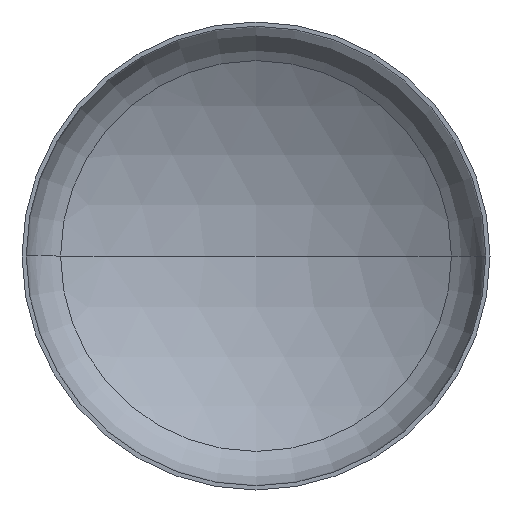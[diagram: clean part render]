
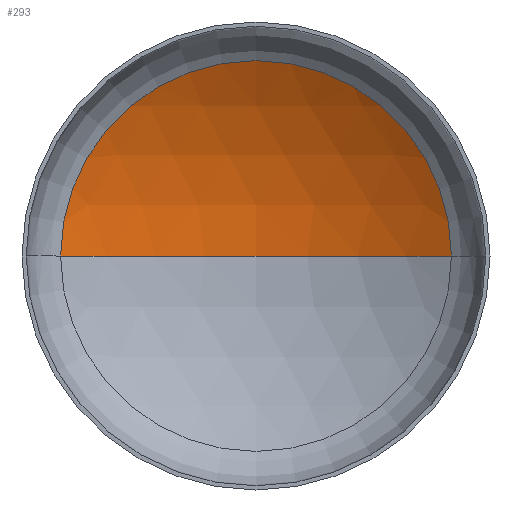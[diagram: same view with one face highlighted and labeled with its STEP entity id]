
A CAD part, front view. The second image highlights one B-rep face of the part: STEP entity #293.
In plain terms, the highlighted spherical face has radius 6400 mm.
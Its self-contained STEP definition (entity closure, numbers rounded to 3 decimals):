
#1 = CARTESIAN_POINT ( 'NONE',  ( 3339.884, 1169.231, 0. ) ) ;
#15 = AXIS2_PLACEMENT_3D ( 'NONE', #155, #238, #253 ) ;
#16 = AXIS2_PLACEMENT_3D ( 'NONE', #182, #183, #305 ) ;
#18 = AXIS2_PLACEMENT_3D ( 'NONE', #203, #194, #192 ) ;
#30 = SPHERICAL_SURFACE ( 'NONE', #119, 6400. ) ;
#50 = VERTEX_POINT ( 'NONE', #270 ) ;
#55 = ORIENTED_EDGE ( 'NONE', *, *, #84, .T. ) ;
#64 = ORIENTED_EDGE ( 'NONE', *, *, #85, .T. ) ;
#84 = EDGE_CURVE ( 'NONE', #103, #110, #257, .T. ) ;
#85 = EDGE_CURVE ( 'NONE', #50, #103, #202, .T. ) ;
#88 = EDGE_CURVE ( 'NONE', #50, #110, #322, .T. ) ;
#103 = VERTEX_POINT ( 'NONE', #1 ) ;
#110 = VERTEX_POINT ( 'NONE', #390 ) ;
#113 = EDGE_LOOP ( 'NONE', ( #125, #64, #55 ) ) ;
#119 = AXIS2_PLACEMENT_3D ( 'NONE', #134, #164, #151 ) ;
#125 = ORIENTED_EDGE ( 'NONE', *, *, #88, .F. ) ;
#134 = CARTESIAN_POINT ( 'NONE',  ( 0., -4290.181, 0. ) ) ;
#151 = DIRECTION ( 'NONE',  ( -1., 0., 0. ) ) ;
#155 = CARTESIAN_POINT ( 'NONE',  ( 0., -4290.181, 0. ) ) ;
#164 = DIRECTION ( 'NONE',  ( 0., 0., -1. ) ) ;
#182 = CARTESIAN_POINT ( 'NONE',  ( 0., -4290.181, 0. ) ) ;
#183 = DIRECTION ( 'NONE',  ( 0., 0., -1. ) ) ;
#192 = DIRECTION ( 'NONE',  ( 1., 0., 0. ) ) ;
#194 = DIRECTION ( 'NONE',  ( 0., -1., 0. ) ) ;
#202 = CIRCLE ( 'NONE', #16, 6400. ) ;
#203 = CARTESIAN_POINT ( 'NONE',  ( 0., 1169.231, 0. ) ) ;
#238 = DIRECTION ( 'NONE',  ( 0., 0., 1. ) ) ;
#253 = DIRECTION ( 'NONE',  ( 1., 0., 0. ) ) ;
#257 = CIRCLE ( 'NONE', #18, 3339.884 ) ;
#270 = CARTESIAN_POINT ( 'NONE',  ( 0., 2109.819, 0. ) ) ;
#293 = ADVANCED_FACE ( 'NONE', ( #367 ), #30, .F. ) ;
#305 = DIRECTION ( 'NONE',  ( -1., 0., 0. ) ) ;
#322 = CIRCLE ( 'NONE', #15, 6400. ) ;
#367 = FACE_OUTER_BOUND ( 'NONE', #113, .T. ) ;
#390 = CARTESIAN_POINT ( 'NONE',  ( -3339.884, 1169.231, 0. ) ) ;
